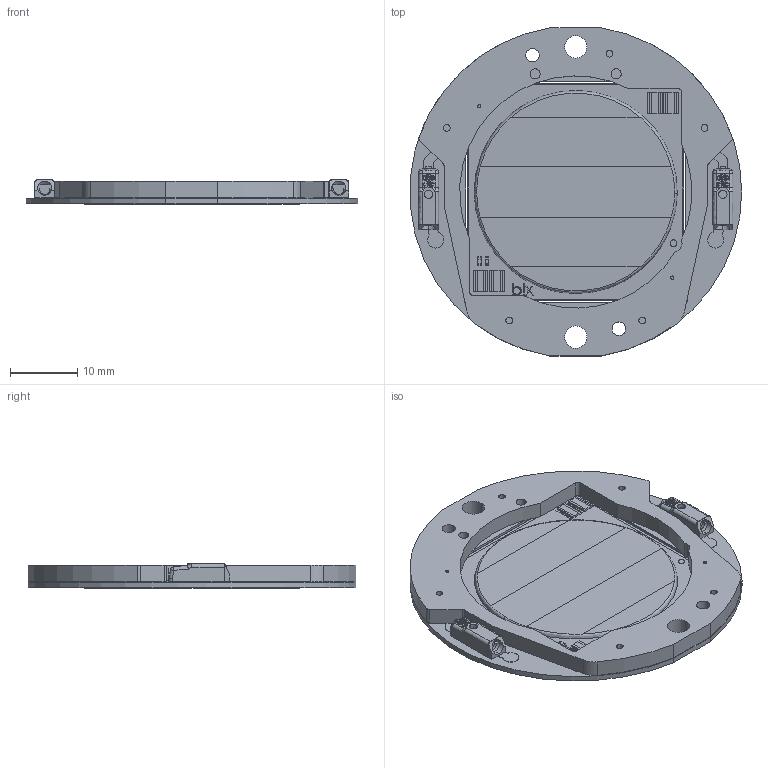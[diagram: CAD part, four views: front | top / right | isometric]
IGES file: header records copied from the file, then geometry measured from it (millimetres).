
Start section: SolidWorks IGES file using analytic representation for surfaces
Global section: file name: C:\Users\jiaqichen\Desktop\DW TW Holder-CoB\New folder\DW 29 Holder-CoB Assembly.IGS; native system: SolidWorks 2020; preprocessor: SolidWorks 2020; author: jiaqichen; date: 200814.175016; units: millimetre
Bounding box: 49.11 x 48.6 x 3.66 mm (x, y, z)
Surface area: 6506.4 mm2 (no closed solid volume)
Topology: 0 solids, 2 shells, 873 faces, 2309 edges, 1501 vertices
Faces by surface type: plane 581, revolution 262, bspline 30
